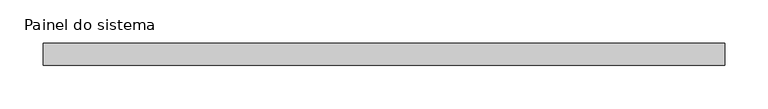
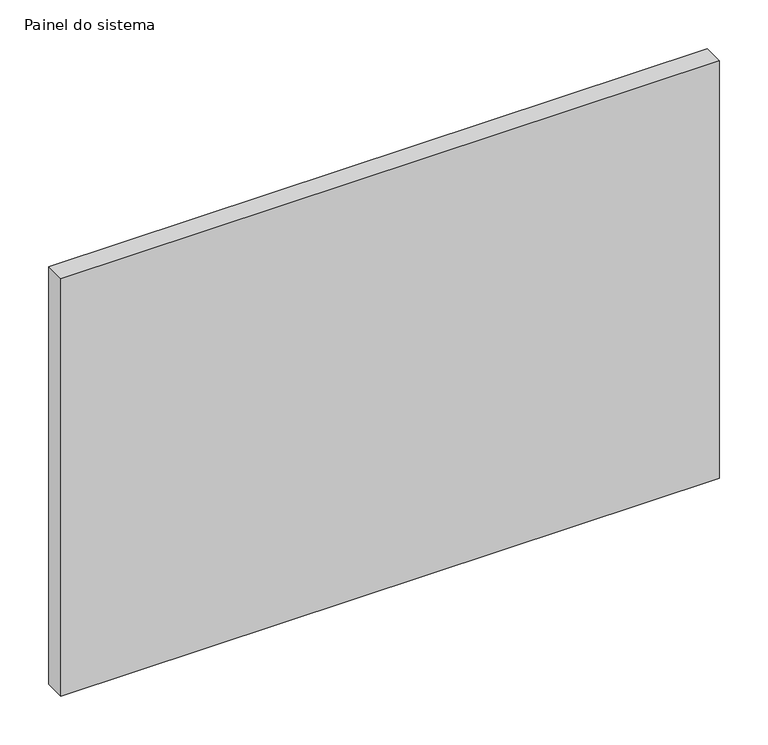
"""IFC4 building model written with IfcOpenShell, lengths in millimetres: plate geometry, Painel do sistema : Envidraçado."""

import ifcopenshell
import ifcopenshell.guid

model = None  # the IFC model being written
_history = None  # IfcOwnerHistory: only IFC2X3 demands one
_inside = {}  # id of a spatial element -> (the spatial element, [elements in it])
_under = {}  # id of a project, library or spatial element -> (it, [spatial elements below it])
_declared = {}  # id of a project -> (the project, [libraries it declares])
_typed = {}  # id of a type object -> (the type object, [elements of that type])
_made_of = {}  # id of a material, layer set ... -> (it, [elements and type objects made of it])


def new_model(schema):
    """Start an empty IFC model of exactly this schema.

    Asked for "IFC4X3", IfcOpenShell would pick the latest addendum, in which some entities
    have other attributes; the version numbers below select the first issue.
    IFC2X3 requires an IfcOwnerHistory on every rooted entity: one is made here for all.
    """
    global model, _history
    if schema == "IFC4X3":
        model = ifcopenshell.file(schema_version=(4, 3, 0, 0))
    else:
        model = ifcopenshell.file(schema=schema)
    _inside.clear()
    _under.clear()
    _declared.clear()
    _typed.clear()
    _made_of.clear()
    _history = None
    if model.schema == "IFC2X3":
        org = make("IfcOrganization", Name="unknown")
        user = make(
            "IfcPersonAndOrganization",
            ThePerson=make("IfcPerson", FamilyName="unknown"),
            TheOrganization=org,
        )
        app = make(
            "IfcApplication",
            ApplicationDeveloper=org,
            Version="unknown",
            ApplicationFullName="unknown",
            ApplicationIdentifier="unknown",
        )
        _history = make(
            "IfcOwnerHistory",
            OwningUser=user,
            OwningApplication=app,
            ChangeAction="ADDED",
            CreationDate=0,
        )
    return model


def make(cls, **values):
    """One entity of the class cls with the attributes given. An attribute that is None is left unset."""
    return model.create_entity(
        cls, **{name: value for name, value in values.items() if value is not None}
    )


def rooted(cls, **values):
    """An entity with a GlobalId (a new one), such as an element, a storey or a relation."""
    return make(cls, GlobalId=ifcopenshell.guid.new(), OwnerHistory=_history, **values)


def si_unit(unit_type, name, prefix=None):
    """IfcSIUnit, for example si_unit("LENGTHUNIT", "METRE", prefix="MILLI")."""
    return make("IfcSIUnit", UnitType=unit_type, Prefix=prefix, Name=name)


def assignment(units):
    """IfcUnitAssignment: the units of a project."""
    return None if units is None else make("IfcUnitAssignment", Units=units)


def point(xyz):
    """IfcCartesianPoint."""
    return None if xyz is None else make("IfcCartesianPoint", Coordinates=xyz)


def direction(xyz):
    """IfcDirection."""
    return None if xyz is None else make("IfcDirection", DirectionRatios=xyz)


def frame(location, z_axis=None, x_axis=None):
    """IfcAxis2Placement3D, a coordinate frame: its origin and axes. An axis left out is left unset."""
    return make(
        "IfcAxis2Placement3D",
        Location=point(location),
        Axis=direction(z_axis),
        RefDirection=direction(x_axis),
    )


def origin():
    """The frame at (0, 0, 0) with its axes left unset."""
    return frame((0.0, 0.0, 0.0))


def origin_with_axes():
    """The frame at (0, 0, 0) with the z axis (0, 0, 1) and the x axis (1, 0, 0) written out."""
    return frame((0.0, 0.0, 0.0), z_axis=(0.0, 0.0, 1.0), x_axis=(1.0, 0.0, 0.0))


def place(relative_to, where):
    """IfcLocalPlacement: puts the frame where relative to a parent placement (None: the world)."""
    return make(
        "IfcLocalPlacement", PlacementRelTo=relative_to, RelativePlacement=where
    )


def context(
    kind, dimensions, precision=None, world=None, true_north=None, identifier=None
):
    """IfcGeometricRepresentationContext, for example the 3D "Model" context."""
    return make(
        "IfcGeometricRepresentationContext",
        ContextIdentifier=identifier,
        ContextType=kind,
        CoordinateSpaceDimension=dimensions,
        Precision=precision,
        WorldCoordinateSystem=world,
        TrueNorth=true_north,
    )


def project(units=None, contexts=None):
    """IfcProject with its units and contexts."""
    return rooted(
        "IfcProject",
        Name="project",
        RepresentationContexts=contexts,
        UnitsInContext=assignment(units),
    )


def spatial(cls, under=None, at=None, **own):
    """A site, building, storey or space (cls), placed at a placement, below another one or the project."""
    s = rooted(cls, ObjectPlacement=at, **own)
    if under is not None:
        _under.setdefault(under.id(), (under, []))[1].append(s)
    return s


def polyline(points):
    """IfcPolyline through the points."""
    return make("IfcPolyline", Points=[point(p) for p in points])


def outline(outer, holes=None, kind="AREA"):
    """IfcArbitraryClosedProfileDef: a profile drawn as a closed curve; with holes, ...WithVoids."""
    if holes is None:
        return make("IfcArbitraryClosedProfileDef", ProfileType=kind, OuterCurve=outer)
    return make(
        "IfcArbitraryProfileDefWithVoids",
        ProfileType=kind,
        OuterCurve=outer,
        InnerCurves=holes,
    )


def extrude(swept, where, along, depth):
    """IfcExtrudedAreaSolid: the profile swept, set in the frame where, extruded along a direction by depth."""
    return make(
        "IfcExtrudedAreaSolid",
        SweptArea=swept,
        Position=where,
        ExtrudedDirection=direction(along),
        Depth=depth,
    )


def shape(context_of_items, identifier, shape_type, items):
    """IfcShapeRepresentation: the items that make up one representation, for example the "Body"."""
    return make(
        "IfcShapeRepresentation",
        ContextOfItems=context_of_items,
        RepresentationIdentifier=identifier,
        RepresentationType=shape_type,
        Items=items,
    )


def source(mapping_origin, context_of_items, identifier, shape_type, items):
    """IfcRepresentationMap: a shape defined once, which mapped items show again and again."""
    return make(
        "IfcRepresentationMap",
        MappingOrigin=mapping_origin,
        MappedRepresentation=shape(context_of_items, identifier, shape_type, items),
    )


def transform(
    local_origin,
    x_axis=None,
    y_axis=None,
    z_axis=None,
    scale=None,
    scale2=None,
    scale3=None,
    uniform=True,
):
    """IfcCartesianTransformationOperator3D, or its non-uniform kind. x_axis, y_axis, z_axis: its Axis1, 2, 3."""
    if uniform:
        return make(
            "IfcCartesianTransformationOperator3D",
            Axis1=direction(x_axis),
            Axis2=direction(y_axis),
            LocalOrigin=point(local_origin),
            Scale=scale,
            Axis3=direction(z_axis),
        )
    return make(
        "IfcCartesianTransformationOperator3DnonUniform",
        Axis1=direction(x_axis),
        Axis2=direction(y_axis),
        LocalOrigin=point(local_origin),
        Scale=scale,
        Axis3=direction(z_axis),
        Scale2=scale2,
        Scale3=scale3,
    )


def mapped(mapping_source, mapping_target):
    """IfcMappedItem: shows the shape of a source again, moved by a transform."""
    return make(
        "IfcMappedItem", MappingSource=mapping_source, MappingTarget=mapping_target
    )


def made_of(thing, what):
    """Note that an element or type object is made of a material, layer set ...; save() writes the relation."""
    if what is not None:
        _made_of.setdefault(what.id(), (what, []))[1].append(thing)
    return thing


def element(
    cls,
    number,
    at=None,
    inside=None,
    cuts=None,
    type_object=None,
    material=None,
    context=None,
    identifier="Body",
    shape_type=None,
    held_by="IfcProductDefinitionShape",
    body=None,
    shapes=None,
    **own,
):
    """One element of the class cls, such as IfcWall. Its Tag is "e" and its number.

    at: its placement. inside: the storey or other place that contains it. cuts: it is an
    opening in that element (IfcRelVoidsElement). A single representation is given by context,
    identifier, shape_type and body (its items); several are given by shapes. held_by: the class
    of the entity that holds the representations. save() writes the other relations.
    """
    e = rooted(cls, Tag="e%d" % number, ObjectPlacement=at, **own)
    if body is not None:
        shapes = [shape(context, identifier, shape_type, body)]
    if shapes is not None:
        e.Representation = make(held_by, Representations=shapes)
    if inside is not None:
        _inside.setdefault(inside.id(), (inside, []))[1].append(e)
    if cuts is not None:
        rooted(
            "IfcRelVoidsElement", RelatingBuildingElement=cuts, RelatedOpeningElement=e
        )
    if type_object is not None:
        _typed.setdefault(type_object.id(), (type_object, []))[1].append(e)
    return made_of(e, material)


def aggregate(whole, parts):
    """IfcRelAggregates: a whole, such as a stair, and the parts it consists of."""
    return rooted("IfcRelAggregates", RelatingObject=whole, RelatedObjects=parts)


def save(model, path):
    """Write the relations noted so far, then the file.

    IfcRelAggregates (storeys below a building ...), IfcRelContainedInSpatialStructure (elements
    in a storey), IfcRelDefinesByType, IfcRelAssociatesMaterial and IfcRelDeclares: one each for
    every whole, place, type object, material and project.
    """
    for whole, parts in _under.values():
        aggregate(whole, parts)
    for where, things in _inside.values():
        rooted(
            "IfcRelContainedInSpatialStructure",
            RelatedElements=things,
            RelatingStructure=where,
        )
    for kind, things in _typed.values():
        rooted("IfcRelDefinesByType", RelatedObjects=things, RelatingType=kind)
    for what, things in _made_of.values():
        rooted("IfcRelAssociatesMaterial", RelatedObjects=things, RelatingMaterial=what)
    for by, libraries in _declared.values():
        rooted("IfcRelDeclares", RelatingContext=by, RelatedDefinitions=libraries)
    model.write(path)


def painel_do_sistema_d9638904(model_context):
    return source(origin(), model_context, "Body", "SweptSolid", [
        extrude(outline(polyline([(391.65, 24.5), (-391.65, 24.5), (-391.65, 49.5), (391.65, 49.5), (391.65, 24.5)])), origin_with_axes(), (0.0, 0.0, 1.0), 525.0),
    ])


if __name__ == "__main__":
    model = new_model("IFC4")
    model_context = context("Model", 3, world=origin())
    ifc_project = project(units=[si_unit("LENGTHUNIT", "METRE", prefix="MILLI")], contexts=[model_context])
    site = spatial("IfcSite", under=ifc_project)
    building = spatial("IfcBuilding", under=site)
    placement = place(None, origin())
    painel_do_sistema_shape = painel_do_sistema_d9638904(model_context)
    element("IfcPlate", 1, ObjectType="Painel do sistema : Envidraçado", at=placement, inside=building, context=model_context, shape_type="MappedRepresentation", body=[
        mapped(painel_do_sistema_shape, transform((0.0, 0.0, 0.0), x_axis=(1.0, 0.0, 0.0), y_axis=(0.0, 1.0, 0.0), z_axis=(0.0, 0.0, 1.0))),
    ])
    save(model, "model.ifc")
